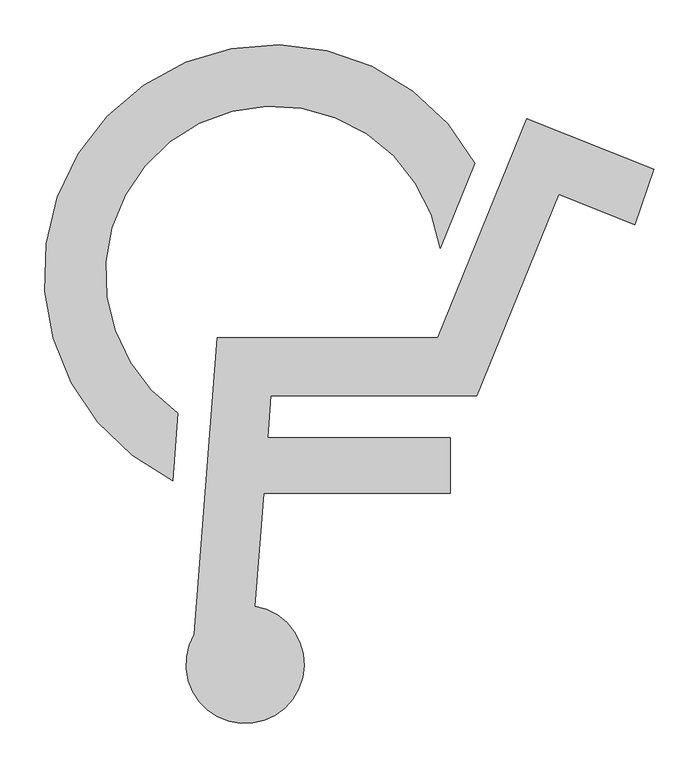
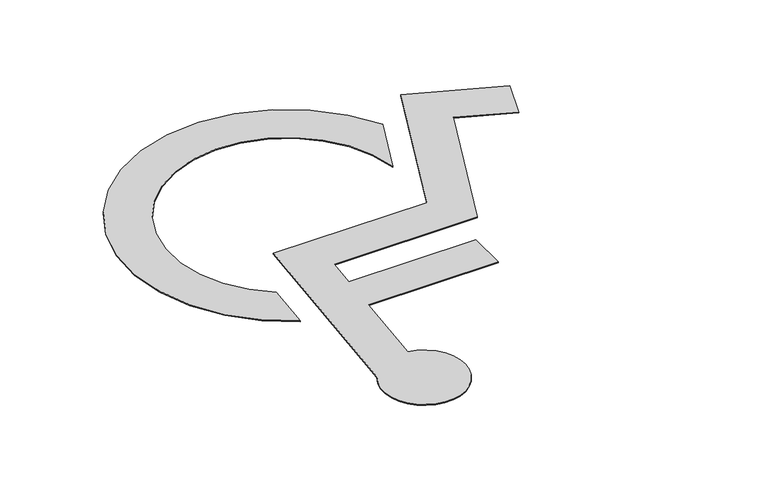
"""IFC4 building model written with IfcOpenShell, lengths in millimetres: proxy geometry, Place de parking - Handicapé : 4.8m x 2.4m - 90°."""

from ifc_helpers import new_model, si_unit, point, frame_2d, origin, origin_with_axes, place, context, project, spatial, polyline, circle_curve, trimmed, segment, composite_curve, outline, extrude, source, transform, mapped, element, save


def parking_4ee11a6e(model_context):
    return source(origin(), model_context, "Body", "SweptSolid", [
        extrude(outline(composite_curve([segment(polyline([(1148.8024065, 2116.6303497), (1174.1231059, 2448.8215315), (1420.9999699, 2448.8215315), (1520.7002448, 2694.0102599), (1663.1291965, 2637.0631972), (1641.9646244, 2575.3597728), (1556.6547828, 2609.469024), (1464.8390947, 2383.6705315), (1234.4970725, 2383.6705315), (1230.9022869, 2336.5092718), (1435.2428621, 2336.5092718), (1435.2428621, 2274.8166249), (1226.1998714, 2274.8166249), (1216.5386145, 2148.0671903)]), True, "CONTINUOUS"), segment(trimmed(circle_curve(frame_2d((1205.6043949, 2082.9336781)), 66.0449209), [point((1216.5386145, 2148.0671903))], [point((1148.8024065, 2116.6303497))], False, "CARTESIAN"), True, "CONTINUOUS")], self_intersect=False)), origin_with_axes(), (0.0, 0.0, 1.0), 1.5875),
        extrude(outline(composite_curve([segment(trimmed(circle_curve(frame_2d((1237.7222674, 2519.5682027)), 257.2702596), [point((1124.563134, 2288.520595))], [point((1462.7534435, 2644.2636565))], False, "CARTESIAN"), True, "CONTINUOUS"), segment(polyline([(1462.7534435, 2644.2636565), (1424.0788255, 2549.1527812)]), True, "CONTINUOUS"), segment(trimmed(circle_curve(frame_2d((1237.7222674, 2519.5682027)), 188.6902596), [point((1424.0788255, 2549.1527812))], [point((1130.347523, 2364.4080328))], True, "CARTESIAN"), True, "CONTINUOUS"), segment(polyline([(1130.347523, 2364.4080328), (1124.563134, 2288.520595)]), True, "CONTINUOUS")], self_intersect=False)), origin_with_axes(), (0.0, 0.0, 1.0), 1.5875),
    ])


if __name__ == "__main__":
    model = new_model("IFC4")
    model_context = context("Model", 3, world=origin())
    ifc_project = project(units=[si_unit("LENGTHUNIT", "METRE", prefix="MILLI")], contexts=[model_context])
    site = spatial("IfcSite", under=ifc_project)
    building = spatial("IfcBuilding", under=site)
    placement = place(None, origin())
    parking_shape = parking_4ee11a6e(model_context)
    element("IfcBuildingElementProxy", 1, Name="Place de parking - Handicapé : 4.8m x 2.4m - 90°", ObjectType="Place de parking - Handicapé : 4.8m x 2.4m - 90°", at=placement, inside=building, context=model_context, shape_type="MappedRepresentation", body=[
        mapped(parking_shape, transform((0.0, 0.0, 0.0), x_axis=(1.0, 0.0, 0.0), y_axis=(0.0, 1.0, 0.0), z_axis=(0.0, 0.0, 1.0))),
    ])
    save(model, "model.ifc")
